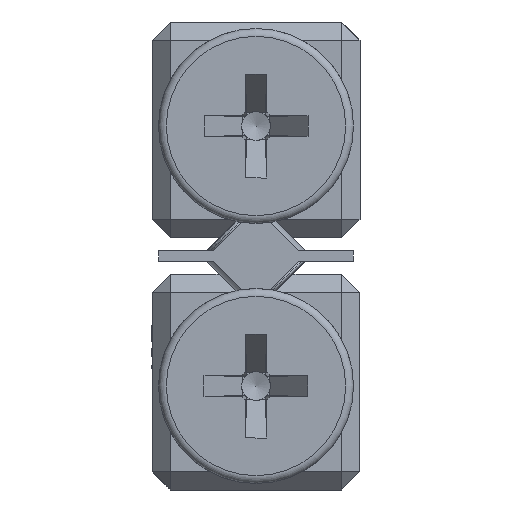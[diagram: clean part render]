
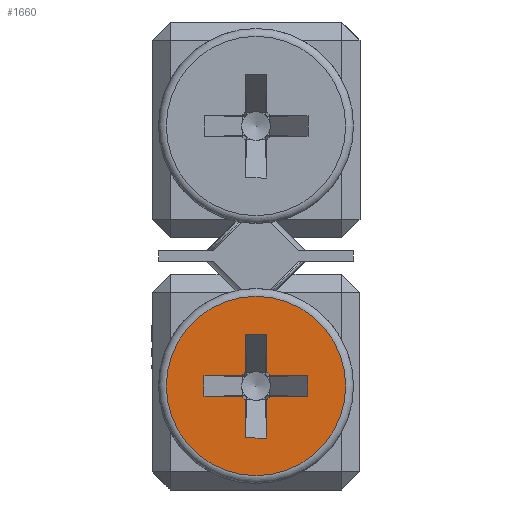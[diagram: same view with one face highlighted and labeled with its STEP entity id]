
A CAD part, left-side view. The second image highlights one B-rep face of the part: STEP entity #1660.
In plain terms, the highlighted planar face has unit normal (-1, 0, 0).
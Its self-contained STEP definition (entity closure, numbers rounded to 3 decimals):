
#49 = VECTOR ( 'NONE', #13912, 1000. ) ;
#288 = DIRECTION ( 'NONE',  ( 0., 0., 1. ) ) ;
#727 = VECTOR ( 'NONE', #5462, 1000. ) ;
#991 = VERTEX_POINT ( 'NONE', #6570 ) ;
#1204 = CIRCLE ( 'NONE', #5637, 0.678 ) ;
#1219 = LINE ( 'NONE', #9823, #11847 ) ;
#1266 = CARTESIAN_POINT ( 'NONE',  ( -39.5, -0.4, 3.452 ) ) ;
#1408 = LINE ( 'NONE', #8529, #10357 ) ;
#1480 = LINE ( 'NONE', #15255, #727 ) ;
#1588 = CIRCLE ( 'NONE', #11919, 0.678 ) ;
#1643 = CARTESIAN_POINT ( 'NONE',  ( -39.5, 0., 4. ) ) ;
#1660 = ADVANCED_FACE ( 'NONE', ( #17328, #10318 ), #11705, .F. ) ;
#1926 = DIRECTION ( 'NONE',  ( 0., 0., 1. ) ) ;
#1927 = CARTESIAN_POINT ( 'NONE',  ( -39.5, 2., 4.4 ) ) ;
#2165 = CARTESIAN_POINT ( 'NONE',  ( -39.5, 3.75, 4. ) ) ;
#2236 = CARTESIAN_POINT ( 'NONE',  ( -39.5, -2., 3.6 ) ) ;
#2265 = VERTEX_POINT ( 'NONE', #2236 ) ;
#2405 = DIRECTION ( 'NONE',  ( 0., 0., -1. ) ) ;
#2461 = EDGE_CURVE ( 'NONE', #10817, #10817, #16692, .T. ) ;
#2582 = DIRECTION ( 'NONE',  ( 0., -1., 0. ) ) ;
#2603 = VERTEX_POINT ( 'NONE', #6371 ) ;
#2813 = DIRECTION ( 'NONE',  ( 0., 0., 1. ) ) ;
#2839 = ORIENTED_EDGE ( 'NONE', *, *, #16008, .F. ) ;
#3194 = ORIENTED_EDGE ( 'NONE', *, *, #15703, .F. ) ;
#3376 = ORIENTED_EDGE ( 'NONE', *, *, #2461, .T. ) ;
#3509 = ORIENTED_EDGE ( 'NONE', *, *, #5039, .T. ) ;
#3556 = CARTESIAN_POINT ( 'NONE',  ( -39.5, -2., 3.6 ) ) ;
#3731 = CARTESIAN_POINT ( 'NONE',  ( -39.5, -0.4, 6. ) ) ;
#3797 = CARTESIAN_POINT ( 'NONE',  ( -39.5, 0., 0.55 ) ) ;
#3812 = CARTESIAN_POINT ( 'NONE',  ( -39.5, 0.4, 4.548 ) ) ;
#3959 = VECTOR ( 'NONE', #7039, 1000. ) ;
#4074 = EDGE_CURVE ( 'NONE', #17436, #15078, #15401, .T. ) ;
#4239 = EDGE_CURVE ( 'NONE', #5071, #8017, #17065, .T. ) ;
#4254 = EDGE_CURVE ( 'NONE', #7535, #4504, #1204, .T. ) ;
#4414 = CARTESIAN_POINT ( 'NONE',  ( -39.5, 2., 4.4 ) ) ;
#4504 = VERTEX_POINT ( 'NONE', #16586 ) ;
#4514 = DIRECTION ( 'NONE',  ( 0., 0., 1. ) ) ;
#4672 = DIRECTION ( 'NONE',  ( 0., 0., -1. ) ) ;
#4681 = ORIENTED_EDGE ( 'NONE', *, *, #12797, .T. ) ;
#5039 = EDGE_CURVE ( 'NONE', #11218, #13227, #1219, .T. ) ;
#5071 = VERTEX_POINT ( 'NONE', #12783 ) ;
#5381 = DIRECTION ( 'NONE',  ( 0., 0., 1. ) ) ;
#5433 = CIRCLE ( 'NONE', #8978, 0.678 ) ;
#5437 = CARTESIAN_POINT ( 'NONE',  ( -39.5, 0., 4. ) ) ;
#5462 = DIRECTION ( 'NONE',  ( 0., 0., -1. ) ) ;
#5535 = DIRECTION ( 'NONE',  ( 0., 0., 1. ) ) ;
#5615 = DIRECTION ( 'NONE',  ( 0., 0., -1. ) ) ;
#5629 = EDGE_CURVE ( 'NONE', #6595, #4504, #9480, .T. ) ;
#5637 = AXIS2_PLACEMENT_3D ( 'NONE', #9544, #9450, #5381 ) ;
#5726 = ORIENTED_EDGE ( 'NONE', *, *, #12162, .T. ) ;
#5775 = AXIS2_PLACEMENT_3D ( 'NONE', #15899, #14428, #10361 ) ;
#5957 = ORIENTED_EDGE ( 'NONE', *, *, #7939, .F. ) ;
#6108 = EDGE_CURVE ( 'NONE', #13420, #6961, #1408, .T. ) ;
#6147 = DIRECTION ( 'NONE',  ( 1., 0., 0. ) ) ;
#6371 = CARTESIAN_POINT ( 'NONE',  ( -39.5, -0.548, 3.6 ) ) ;
#6388 = CARTESIAN_POINT ( 'NONE',  ( -39.5, 2., 3.6 ) ) ;
#6570 = CARTESIAN_POINT ( 'NONE',  ( -39.5, -0.4, 4.548 ) ) ;
#6595 = VERTEX_POINT ( 'NONE', #1927 ) ;
#6912 = VECTOR ( 'NONE', #2582, 1000. ) ;
#6960 = DIRECTION ( 'NONE',  ( 0., 1., 0. ) ) ;
#6961 = VERTEX_POINT ( 'NONE', #11457 ) ;
#6963 = LINE ( 'NONE', #18228, #10538 ) ;
#7039 = DIRECTION ( 'NONE',  ( 0., 1., 0. ) ) ;
#7059 = DIRECTION ( 'NONE',  ( 0., 0., 1. ) ) ;
#7315 = VECTOR ( 'NONE', #288, 1000. ) ;
#7535 = VERTEX_POINT ( 'NONE', #3812 ) ;
#7601 = ORIENTED_EDGE ( 'NONE', *, *, #17980, .T. ) ;
#7681 = CARTESIAN_POINT ( 'NONE',  ( -39.5, 0.548, 3.6 ) ) ;
#7702 = VECTOR ( 'NONE', #5615, 1000. ) ;
#7939 = EDGE_CURVE ( 'NONE', #11218, #6961, #1588, .T. ) ;
#8011 = EDGE_CURVE ( 'NONE', #16664, #8182, #13864, .T. ) ;
#8017 = VERTEX_POINT ( 'NONE', #12581 ) ;
#8067 = EDGE_LOOP ( 'NONE', ( #11447, #9175, #8727, #18059, #5957, #3509, #2839, #13940, #17217, #5726, #16923, #7601, #10527, #17801, #3194, #4681 ) ) ;
#8182 = VERTEX_POINT ( 'NONE', #9132 ) ;
#8223 = DIRECTION ( 'NONE',  ( -1., 0., 0. ) ) ;
#8236 = CARTESIAN_POINT ( 'NONE',  ( -39.5, -0.4, 6. ) ) ;
#8339 = EDGE_CURVE ( 'NONE', #13420, #15078, #8395, .T. ) ;
#8395 = LINE ( 'NONE', #9594, #6912 ) ;
#8401 = EDGE_CURVE ( 'NONE', #5071, #991, #10171, .T. ) ;
#8529 = CARTESIAN_POINT ( 'NONE',  ( -39.5, 0.4, 2. ) ) ;
#8727 = ORIENTED_EDGE ( 'NONE', *, *, #8339, .F. ) ;
#8978 = AXIS2_PLACEMENT_3D ( 'NONE', #11134, #16756, #2813 ) ;
#8998 = DIRECTION ( 'NONE',  ( 0., 1., 0. ) ) ;
#9132 = CARTESIAN_POINT ( 'NONE',  ( -39.5, 0.4, 6. ) ) ;
#9174 = VECTOR ( 'NONE', #10055, 1000. ) ;
#9175 = ORIENTED_EDGE ( 'NONE', *, *, #4074, .T. ) ;
#9450 = DIRECTION ( 'NONE',  ( -1., 0., 0. ) ) ;
#9480 = LINE ( 'NONE', #12441, #49 ) ;
#9544 = CARTESIAN_POINT ( 'NONE',  ( -39.5, 0., 4. ) ) ;
#9594 = CARTESIAN_POINT ( 'NONE',  ( -39.5, 0.4, 2. ) ) ;
#9823 = CARTESIAN_POINT ( 'NONE',  ( -39.5, -2., 3.6 ) ) ;
#10055 = DIRECTION ( 'NONE',  ( 0., -1., 0. ) ) ;
#10171 = CIRCLE ( 'NONE', #17234, 0.678 ) ;
#10274 = VECTOR ( 'NONE', #2405, 1000. ) ;
#10318 = FACE_BOUND ( 'NONE', #8067, .T. ) ;
#10357 = VECTOR ( 'NONE', #7059, 1000. ) ;
#10361 = DIRECTION ( 'NONE',  ( 0., 0., -1. ) ) ;
#10527 = ORIENTED_EDGE ( 'NONE', *, *, #8401, .F. ) ;
#10538 = VECTOR ( 'NONE', #1926, 1000. ) ;
#10549 = VECTOR ( 'NONE', #8998, 1000. ) ;
#10817 = VERTEX_POINT ( 'NONE', #3797 ) ;
#11134 = CARTESIAN_POINT ( 'NONE',  ( -39.5, 0., 4. ) ) ;
#11218 = VERTEX_POINT ( 'NONE', #7681 ) ;
#11447 = ORIENTED_EDGE ( 'NONE', *, *, #17735, .F. ) ;
#11457 = CARTESIAN_POINT ( 'NONE',  ( -39.5, 0.4, 3.452 ) ) ;
#11607 = LINE ( 'NONE', #3556, #10549 ) ;
#11705 = PLANE ( 'NONE',  #15193 ) ;
#11812 = CARTESIAN_POINT ( 'NONE',  ( -39.5, -0.4, 2. ) ) ;
#11847 = VECTOR ( 'NONE', #6960, 1000. ) ;
#11919 = AXIS2_PLACEMENT_3D ( 'NONE', #5437, #8223, #5535 ) ;
#12106 = LINE ( 'NONE', #15047, #10274 ) ;
#12162 = EDGE_CURVE ( 'NONE', #7535, #8182, #6963, .T. ) ;
#12441 = CARTESIAN_POINT ( 'NONE',  ( -39.5, 2., 4.4 ) ) ;
#12581 = CARTESIAN_POINT ( 'NONE',  ( -39.5, -2., 4.4 ) ) ;
#12778 = LINE ( 'NONE', #14062, #7315 ) ;
#12783 = CARTESIAN_POINT ( 'NONE',  ( -39.5, -0.548, 4.4 ) ) ;
#12797 = EDGE_CURVE ( 'NONE', #2265, #2603, #11607, .T. ) ;
#13227 = VERTEX_POINT ( 'NONE', #6388 ) ;
#13420 = VERTEX_POINT ( 'NONE', #14423 ) ;
#13864 = LINE ( 'NONE', #8236, #3959 ) ;
#13912 = DIRECTION ( 'NONE',  ( 0., -1., 0. ) ) ;
#13940 = ORIENTED_EDGE ( 'NONE', *, *, #5629, .T. ) ;
#14062 = CARTESIAN_POINT ( 'NONE',  ( -39.5, -2., 3.6 ) ) ;
#14122 = DIRECTION ( 'NONE',  ( -1., 0., 0. ) ) ;
#14423 = CARTESIAN_POINT ( 'NONE',  ( -39.5, 0.4, 2. ) ) ;
#14428 = DIRECTION ( 'NONE',  ( -1., 0., 0. ) ) ;
#15047 = CARTESIAN_POINT ( 'NONE',  ( -39.5, 2., 4.4 ) ) ;
#15078 = VERTEX_POINT ( 'NONE', #11812 ) ;
#15193 = AXIS2_PLACEMENT_3D ( 'NONE', #2165, #6147, #4672 ) ;
#15255 = CARTESIAN_POINT ( 'NONE',  ( -39.5, -0.4, 6. ) ) ;
#15401 = LINE ( 'NONE', #16787, #7702 ) ;
#15703 = EDGE_CURVE ( 'NONE', #2265, #8017, #12778, .T. ) ;
#15741 = EDGE_LOOP ( 'NONE', ( #3376 ) ) ;
#15899 = CARTESIAN_POINT ( 'NONE',  ( -39.5, 0., 4. ) ) ;
#16008 = EDGE_CURVE ( 'NONE', #6595, #13227, #12106, .T. ) ;
#16586 = CARTESIAN_POINT ( 'NONE',  ( -39.5, 0.548, 4.4 ) ) ;
#16664 = VERTEX_POINT ( 'NONE', #3731 ) ;
#16692 = CIRCLE ( 'NONE', #5775, 3.45 ) ;
#16756 = DIRECTION ( 'NONE',  ( -1., 0., 0. ) ) ;
#16787 = CARTESIAN_POINT ( 'NONE',  ( -39.5, -0.4, 6. ) ) ;
#16923 = ORIENTED_EDGE ( 'NONE', *, *, #8011, .F. ) ;
#17065 = LINE ( 'NONE', #4414, #9174 ) ;
#17217 = ORIENTED_EDGE ( 'NONE', *, *, #4254, .F. ) ;
#17234 = AXIS2_PLACEMENT_3D ( 'NONE', #1643, #14122, #4514 ) ;
#17328 = FACE_OUTER_BOUND ( 'NONE', #15741, .T. ) ;
#17436 = VERTEX_POINT ( 'NONE', #1266 ) ;
#17735 = EDGE_CURVE ( 'NONE', #17436, #2603, #5433, .T. ) ;
#17801 = ORIENTED_EDGE ( 'NONE', *, *, #4239, .T. ) ;
#17980 = EDGE_CURVE ( 'NONE', #16664, #991, #1480, .T. ) ;
#18059 = ORIENTED_EDGE ( 'NONE', *, *, #6108, .T. ) ;
#18228 = CARTESIAN_POINT ( 'NONE',  ( -39.5, 0.4, 2. ) ) ;
